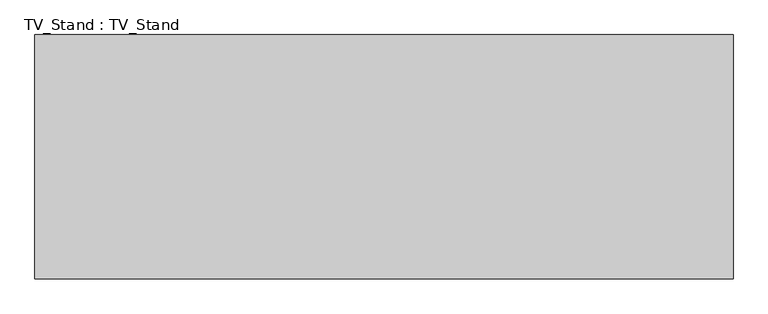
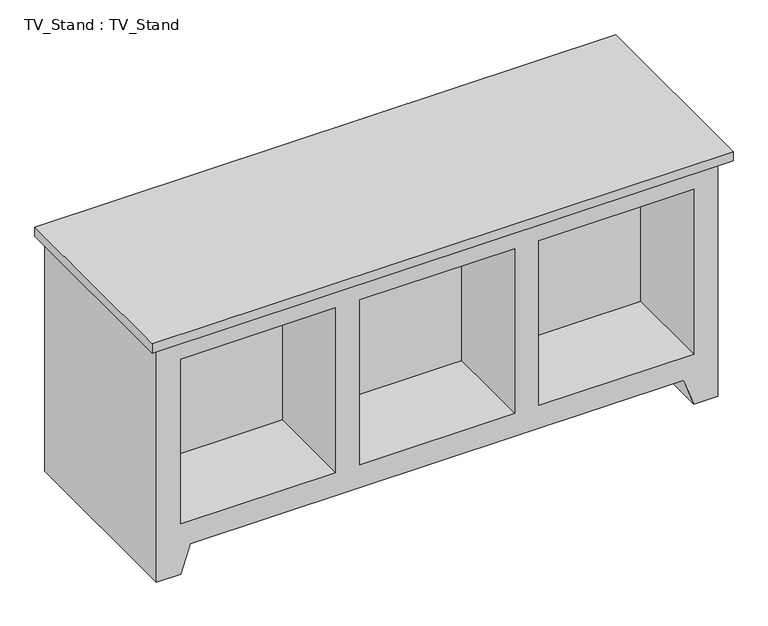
"""IFC4 building model written with IfcOpenShell, lengths in millimetres: furniture geometry, TV_Stand : TV_Stand."""

from ifc_helpers import new_model, si_unit, frame, origin, place, context, project, spatial, polyline, outline, extrude, faceted_brep, source, transform, mapped, element, save


def tv_stand_tv_stand_2ccc90d3(model_context):
    return source(origin(), model_context, "Body", "SolidModel", [
        faceted_brep([(736.6, 266.7, 660.4), (-736.6, 266.7, 660.4), (-736.6, -241.3, 660.4), (736.6, -241.3, 660.4), (736.6, 266.7, 0.0), (736.6, -241.3, 0.0), (673.1, -241.3, 0.0), (673.1, 0.0, 0.0), (-673.1, 0.0, 0.0), (-673.1, -241.3, 0.0), (-736.6, -241.3, 0.0), (-736.6, 266.7, 0.0), (-647.7, -241.3, 76.2), (647.7, -241.3, 76.2), (-203.2, -241.3, 596.9), (203.2, -241.3, 596.9), (203.2, -241.3, 139.7), (-203.2, -241.3, 139.7), (266.7, -241.3, 596.9), (673.1, -241.3, 596.9), (673.1, -241.3, 139.7), (266.7, -241.3, 139.7), (-673.1, -241.3, 139.7), (-673.1, -241.3, 596.9), (-266.7, -241.3, 596.9), (-266.7, -241.3, 139.7), (203.2, 0.0, 596.9), (-203.2, 0.0, 596.9), (-203.2, 0.0, 139.7), (203.2, 0.0, 139.7), (673.1, 0.0, 596.9), (266.7, 0.0, 596.9), (266.7, 0.0, 139.7), (673.1, 0.0, 139.7), (-673.1, 0.0, 596.9), (-673.1, 0.0, 139.7), (-266.7, 0.0, 139.7), (-266.7, 0.0, 596.9), (-647.7, 0.0, 76.2), (647.7, 0.0, 76.2)], [[[0, 1, 2, 3]], [[4, 5, 6, 7, 8, 9, 10, 11]], [[1, 0, 4, 11]], [[2, 1, 11, 10]], [[3, 2, 10, 9, 12, 13, 6, 5], [14, 15, 16, 17], [18, 19, 20, 21], [22, 23, 24, 25]], [[0, 3, 5, 4]], [[26, 27, 28, 29]], [[30, 31, 32, 33]], [[34, 35, 36, 37]], [[27, 26, 15, 14]], [[28, 27, 14, 17]], [[29, 28, 17, 16]], [[26, 29, 16, 15]], [[31, 30, 19, 18]], [[32, 31, 18, 21]], [[33, 32, 21, 20]], [[30, 33, 20, 19]], [[35, 34, 23, 22]], [[36, 35, 22, 25]], [[37, 36, 25, 24]], [[34, 37, 24, 23]], [[38, 8, 7, 39]], [[8, 38, 12, 9]], [[39, 7, 6, 13]], [[38, 39, 13, 12]]]),
        extrude(outline(polyline([(762.0, 266.7), (762.0, -266.7), (-762.0, -266.7), (-762.0, 266.7), (762.0, 266.7)])), frame((0.0, 0.0, 660.4), z_axis=(0.0, 0.0, 1.0), x_axis=(1.0, 0.0, 0.0)), (0.0, 0.0, 1.0), 25.4),
    ])


if __name__ == "__main__":
    model = new_model("IFC4")
    model_context = context("Model", 3, world=origin())
    ifc_project = project(units=[si_unit("LENGTHUNIT", "METRE", prefix="MILLI")], contexts=[model_context])
    site = spatial("IfcSite", under=ifc_project)
    building = spatial("IfcBuilding", under=site)
    placement = place(None, origin())
    tv_stand_tv_stand_shape = tv_stand_tv_stand_2ccc90d3(model_context)
    element("IfcFurniture", 1, ObjectType="TV_Stand : TV_Stand", at=placement, inside=building, context=model_context, shape_type="MappedRepresentation", body=[
        mapped(tv_stand_tv_stand_shape, transform((0.0, 0.0, 0.0), x_axis=(1.0, 0.0, 0.0), y_axis=(0.0, 1.0, 0.0), z_axis=(0.0, 0.0, 1.0))),
    ])
    save(model, "model.ifc")
